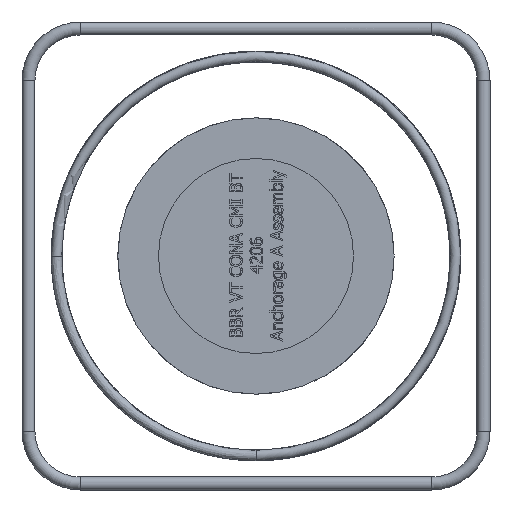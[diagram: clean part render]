
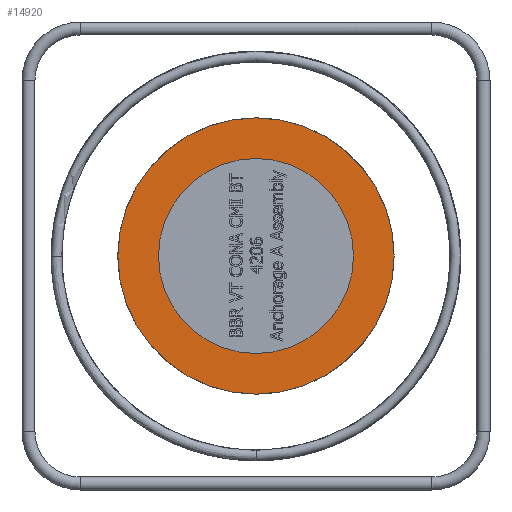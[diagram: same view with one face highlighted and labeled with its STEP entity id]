
A CAD part, left-side view. The second image highlights one B-rep face of the part: STEP entity #14920.
In plain terms, the highlighted planar face has unit normal (-1, 0, 0).
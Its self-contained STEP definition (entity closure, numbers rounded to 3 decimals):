
#92=FACE_BOUND('',#5256,.T.);
#718=PLANE('',#15695);
#4415=FACE_OUTER_BOUND('',#5255,.T.);
#5255=EDGE_LOOP('',(#13063));
#5256=EDGE_LOOP('',(#13064));
#5501=CIRCLE('',#15591,150.);
#5530=CIRCLE('',#15641,212.5);
#6886=VERTEX_POINT('',#31264);
#6935=VERTEX_POINT('',#32062);
#8884=EDGE_CURVE('',#6886,#6886,#5501,.T.);
#8957=EDGE_CURVE('',#6935,#6935,#5530,.T.);
#13063=ORIENTED_EDGE('',*,*,#8957,.T.);
#13064=ORIENTED_EDGE('',*,*,#8884,.T.);
#14920=ADVANCED_FACE('',(#4415,#92),#718,.T.);
#15591=AXIS2_PLACEMENT_3D('',#31266,#18098,#18099);
#15641=AXIS2_PLACEMENT_3D('',#32063,#18212,#18213);
#15695=AXIS2_PLACEMENT_3D('',#32205,#18328,#18329);
#18098=DIRECTION('center_axis',(1.,0.,0.));
#18099=DIRECTION('ref_axis',(0.,1.,0.));
#18212=DIRECTION('center_axis',(-1.,0.,0.));
#18213=DIRECTION('ref_axis',(0.,-1.,0.));
#18328=DIRECTION('center_axis',(-1.,0.,0.));
#18329=DIRECTION('ref_axis',(0.,0.,
1.));
#31264=CARTESIAN_POINT('',(-290.,-150.,0.));
#31266=CARTESIAN_POINT('Origin',(-290.,0.,0.));
#32062=CARTESIAN_POINT('',(-290.,212.5,0.));
#32063=CARTESIAN_POINT('Origin',(-290.,0.,0.));
#32205=CARTESIAN_POINT('Origin',(-290.,-167.,0.));
